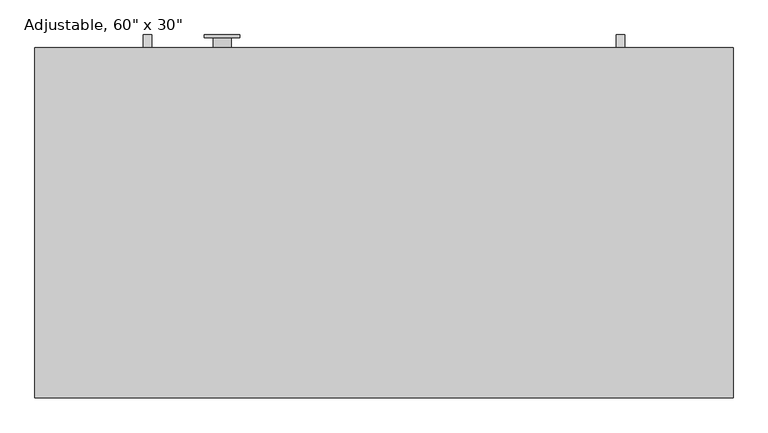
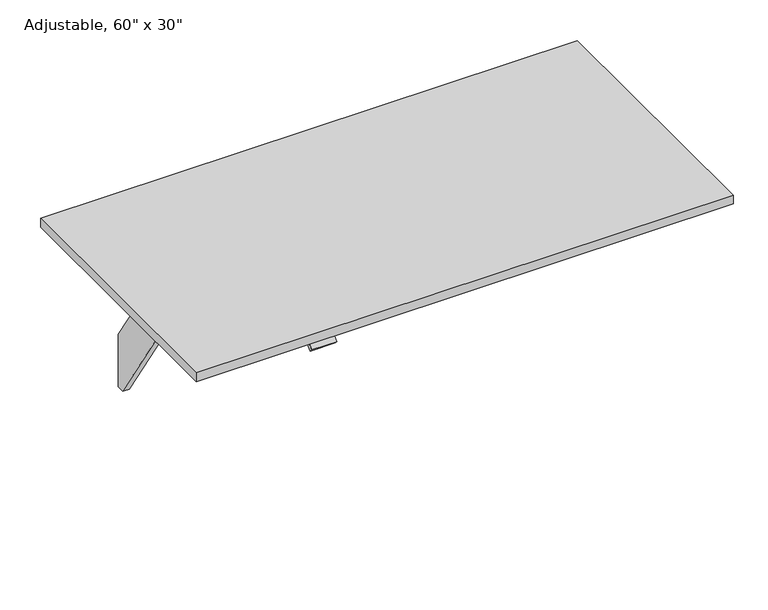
"""IFC4 building model written with IfcOpenShell, lengths in millimetres: furniture geometry."""

import ifcopenshell
import ifcopenshell.guid

model = None  # the IFC model being written
_history = None  # IfcOwnerHistory: only IFC2X3 demands one
_inside = {}  # id of a spatial element -> (the spatial element, [elements in it])
_under = {}  # id of a project, library or spatial element -> (it, [spatial elements below it])
_declared = {}  # id of a project -> (the project, [libraries it declares])
_typed = {}  # id of a type object -> (the type object, [elements of that type])
_made_of = {}  # id of a material, layer set ... -> (it, [elements and type objects made of it])


def new_model(schema):
    """Start an empty IFC model of exactly this schema.

    Asked for "IFC4X3", IfcOpenShell would pick the latest addendum, in which some entities
    have other attributes; the version numbers below select the first issue.
    IFC2X3 requires an IfcOwnerHistory on every rooted entity: one is made here for all.
    """
    global model, _history
    if schema == "IFC4X3":
        model = ifcopenshell.file(schema_version=(4, 3, 0, 0))
    else:
        model = ifcopenshell.file(schema=schema)
    _inside.clear()
    _under.clear()
    _declared.clear()
    _typed.clear()
    _made_of.clear()
    _history = None
    if model.schema == "IFC2X3":
        org = make("IfcOrganization", Name="unknown")
        user = make(
            "IfcPersonAndOrganization",
            ThePerson=make("IfcPerson", FamilyName="unknown"),
            TheOrganization=org,
        )
        app = make(
            "IfcApplication",
            ApplicationDeveloper=org,
            Version="unknown",
            ApplicationFullName="unknown",
            ApplicationIdentifier="unknown",
        )
        _history = make(
            "IfcOwnerHistory",
            OwningUser=user,
            OwningApplication=app,
            ChangeAction="ADDED",
            CreationDate=0,
        )
    return model


def make(cls, **values):
    """One entity of the class cls with the attributes given. An attribute that is None is left unset."""
    return model.create_entity(
        cls, **{name: value for name, value in values.items() if value is not None}
    )


def rooted(cls, **values):
    """An entity with a GlobalId (a new one), such as an element, a storey or a relation."""
    return make(cls, GlobalId=ifcopenshell.guid.new(), OwnerHistory=_history, **values)


def si_unit(unit_type, name, prefix=None):
    """IfcSIUnit, for example si_unit("LENGTHUNIT", "METRE", prefix="MILLI")."""
    return make("IfcSIUnit", UnitType=unit_type, Prefix=prefix, Name=name)


def assignment(units):
    """IfcUnitAssignment: the units of a project."""
    return None if units is None else make("IfcUnitAssignment", Units=units)


def point(xyz):
    """IfcCartesianPoint."""
    return None if xyz is None else make("IfcCartesianPoint", Coordinates=xyz)


def direction(xyz):
    """IfcDirection."""
    return None if xyz is None else make("IfcDirection", DirectionRatios=xyz)


def frame(location, z_axis=None, x_axis=None):
    """IfcAxis2Placement3D, a coordinate frame: its origin and axes. An axis left out is left unset."""
    return make(
        "IfcAxis2Placement3D",
        Location=point(location),
        Axis=direction(z_axis),
        RefDirection=direction(x_axis),
    )


def frame_2d(location, x_axis=None):
    """IfcAxis2Placement2D, a coordinate frame in the plane: its origin and x axis."""
    return make(
        "IfcAxis2Placement2D", Location=point(location), RefDirection=direction(x_axis)
    )


def origin():
    """The frame at (0, 0, 0) with its axes left unset."""
    return frame((0.0, 0.0, 0.0))


def place(relative_to, where):
    """IfcLocalPlacement: puts the frame where relative to a parent placement (None: the world)."""
    return make(
        "IfcLocalPlacement", PlacementRelTo=relative_to, RelativePlacement=where
    )


def context(
    kind, dimensions, precision=None, world=None, true_north=None, identifier=None
):
    """IfcGeometricRepresentationContext, for example the 3D "Model" context."""
    return make(
        "IfcGeometricRepresentationContext",
        ContextIdentifier=identifier,
        ContextType=kind,
        CoordinateSpaceDimension=dimensions,
        Precision=precision,
        WorldCoordinateSystem=world,
        TrueNorth=true_north,
    )


def project(units=None, contexts=None):
    """IfcProject with its units and contexts."""
    return rooted(
        "IfcProject",
        Name="project",
        RepresentationContexts=contexts,
        UnitsInContext=assignment(units),
    )


def spatial(cls, under=None, at=None, **own):
    """A site, building, storey or space (cls), placed at a placement, below another one or the project."""
    s = rooted(cls, ObjectPlacement=at, **own)
    if under is not None:
        _under.setdefault(under.id(), (under, []))[1].append(s)
    return s


def polyline(points):
    """IfcPolyline through the points."""
    return make("IfcPolyline", Points=[point(p) for p in points])


def circle_curve(where, radius):
    """IfcCircle in the frame where."""
    return make("IfcCircle", Position=where, Radius=radius)


def trimmed(basis, trim1, trim2, sense, master):
    """IfcTrimmedCurve: the piece of a basis curve between two trims."""
    return make(
        "IfcTrimmedCurve",
        BasisCurve=basis,
        Trim1=trim1,
        Trim2=trim2,
        SenseAgreement=sense,
        MasterRepresentation=master,
    )


def segment(curve, same_sense, transition):
    """IfcCompositeCurveSegment."""
    return make(
        "IfcCompositeCurveSegment",
        Transition=transition,
        SameSense=same_sense,
        ParentCurve=curve,
    )


def composite_curve(segments, self_intersect=None):
    """IfcCompositeCurve: segments joined end to end."""
    return make("IfcCompositeCurve", Segments=segments, SelfIntersect=self_intersect)


def outline(outer, holes=None, kind="AREA"):
    """IfcArbitraryClosedProfileDef: a profile drawn as a closed curve; with holes, ...WithVoids."""
    if holes is None:
        return make("IfcArbitraryClosedProfileDef", ProfileType=kind, OuterCurve=outer)
    return make(
        "IfcArbitraryProfileDefWithVoids",
        ProfileType=kind,
        OuterCurve=outer,
        InnerCurves=holes,
    )


def extrude(swept, where, along, depth):
    """IfcExtrudedAreaSolid: the profile swept, set in the frame where, extruded along a direction by depth."""
    return make(
        "IfcExtrudedAreaSolid",
        SweptArea=swept,
        Position=where,
        ExtrudedDirection=direction(along),
        Depth=depth,
    )


def shape(context_of_items, identifier, shape_type, items):
    """IfcShapeRepresentation: the items that make up one representation, for example the "Body"."""
    return make(
        "IfcShapeRepresentation",
        ContextOfItems=context_of_items,
        RepresentationIdentifier=identifier,
        RepresentationType=shape_type,
        Items=items,
    )


def source(mapping_origin, context_of_items, identifier, shape_type, items):
    """IfcRepresentationMap: a shape defined once, which mapped items show again and again."""
    return make(
        "IfcRepresentationMap",
        MappingOrigin=mapping_origin,
        MappedRepresentation=shape(context_of_items, identifier, shape_type, items),
    )


def transform(
    local_origin,
    x_axis=None,
    y_axis=None,
    z_axis=None,
    scale=None,
    scale2=None,
    scale3=None,
    uniform=True,
):
    """IfcCartesianTransformationOperator3D, or its non-uniform kind. x_axis, y_axis, z_axis: its Axis1, 2, 3."""
    if uniform:
        return make(
            "IfcCartesianTransformationOperator3D",
            Axis1=direction(x_axis),
            Axis2=direction(y_axis),
            LocalOrigin=point(local_origin),
            Scale=scale,
            Axis3=direction(z_axis),
        )
    return make(
        "IfcCartesianTransformationOperator3DnonUniform",
        Axis1=direction(x_axis),
        Axis2=direction(y_axis),
        LocalOrigin=point(local_origin),
        Scale=scale,
        Axis3=direction(z_axis),
        Scale2=scale2,
        Scale3=scale3,
    )


def mapped(mapping_source, mapping_target):
    """IfcMappedItem: shows the shape of a source again, moved by a transform."""
    return make(
        "IfcMappedItem", MappingSource=mapping_source, MappingTarget=mapping_target
    )


def made_of(thing, what):
    """Note that an element or type object is made of a material, layer set ...; save() writes the relation."""
    if what is not None:
        _made_of.setdefault(what.id(), (what, []))[1].append(thing)
    return thing


def element(
    cls,
    number,
    at=None,
    inside=None,
    cuts=None,
    type_object=None,
    material=None,
    context=None,
    identifier="Body",
    shape_type=None,
    held_by="IfcProductDefinitionShape",
    body=None,
    shapes=None,
    **own,
):
    """One element of the class cls, such as IfcWall. Its Tag is "e" and its number.

    at: its placement. inside: the storey or other place that contains it. cuts: it is an
    opening in that element (IfcRelVoidsElement). A single representation is given by context,
    identifier, shape_type and body (its items); several are given by shapes. held_by: the class
    of the entity that holds the representations. save() writes the other relations.
    """
    e = rooted(cls, Tag="e%d" % number, ObjectPlacement=at, **own)
    if body is not None:
        shapes = [shape(context, identifier, shape_type, body)]
    if shapes is not None:
        e.Representation = make(held_by, Representations=shapes)
    if inside is not None:
        _inside.setdefault(inside.id(), (inside, []))[1].append(e)
    if cuts is not None:
        rooted(
            "IfcRelVoidsElement", RelatingBuildingElement=cuts, RelatedOpeningElement=e
        )
    if type_object is not None:
        _typed.setdefault(type_object.id(), (type_object, []))[1].append(e)
    return made_of(e, material)


def aggregate(whole, parts):
    """IfcRelAggregates: a whole, such as a stair, and the parts it consists of."""
    return rooted("IfcRelAggregates", RelatingObject=whole, RelatedObjects=parts)


def save(model, path):
    """Write the relations noted so far, then the file.

    IfcRelAggregates (storeys below a building ...), IfcRelContainedInSpatialStructure (elements
    in a storey), IfcRelDefinesByType, IfcRelAssociatesMaterial and IfcRelDeclares: one each for
    every whole, place, type object, material and project.
    """
    for whole, parts in _under.values():
        aggregate(whole, parts)
    for where, things in _inside.values():
        rooted(
            "IfcRelContainedInSpatialStructure",
            RelatedElements=things,
            RelatingStructure=where,
        )
    for kind, things in _typed.values():
        rooted("IfcRelDefinesByType", RelatedObjects=things, RelatingType=kind)
    for what, things in _made_of.values():
        rooted("IfcRelAssociatesMaterial", RelatedObjects=things, RelatingMaterial=what)
    for by, libraries in _declared.values():
        rooted("IfcRelDeclares", RelatingContext=by, RelatedDefinitions=libraries)
    model.write(path)


def plane_surface(at):
    """IfcPlane: the flat surface through the origin of the frame at, square to its z axis."""
    return make("IfcPlane", Position=at)


def cylinder_surface(at, radius):
    """IfcCylindricalSurface: all points at the distance radius from the z axis of the frame at."""
    return make("IfcCylindricalSurface", Position=at, Radius=radius)


def revolved_surface(curve, axis_point, axis_direction):
    """IfcSurfaceOfRevolution: the curve turned about the line through axis_point along axis_direction."""
    return make(
        "IfcSurfaceOfRevolution",
        SweptCurve=make("IfcArbitraryOpenProfileDef", ProfileType="CURVE", Curve=curve),
        AxisPosition=make("IfcAxis1Placement", Location=point(axis_point), Axis=direction(axis_direction)),
    )


def advanced_brep(points, edges, surfaces, faces):
    """IfcAdvancedBrep: a solid bounded by faces that lie on surfaces and meet in shared edges.

    An edge is (start, end): straight between two places in points (the first is 0);
    or (start, end, curve); or (start, end, curve, False) where it runs against its curve.
    A face is (place in surfaces, loops), or (place, loops, False) where it looks against
    its surface's normal. A loop lists edges by number (the first is 1), with a minus sign
    where the edge is run from its end to its start. The first loop is the outer one.
    """
    corners = [point(p) for p in points]
    vertices = [make("IfcVertexPoint", VertexGeometry=c) for c in corners]
    made = []
    for start, end, *more in edges:
        made.append(
            make(
                "IfcEdgeCurve",
                EdgeStart=vertices[start],
                EdgeEnd=vertices[end],
                EdgeGeometry=more[0] if more else make("IfcPolyline", Points=[corners[start], corners[end]]),
                SameSense=more[1] if len(more) > 1 else True,
            )
        )
    hull = []
    for where, loops, *sense in faces:
        bounds = []
        for j, loop in enumerate(loops):
            ring = [make("IfcOrientedEdge", EdgeElement=made[abs(k) - 1], Orientation=k > 0) for k in loop]
            bounds.append(
                make(
                    "IfcFaceOuterBound" if j == 0 else "IfcFaceBound",
                    Bound=make("IfcEdgeLoop", EdgeList=ring),
                    Orientation=True,
                )
            )
        hull.append(make("IfcAdvancedFace", Bounds=bounds, FaceSurface=surfaces[where], SameSense=sense[0] if sense else True))
    return make("IfcAdvancedBrep", Outer=make("IfcClosedShell", CfsFaces=hull))


def furniture_ecb3b3c7(model_context):
    return source(origin(), model_context, "Body", "SolidModel", [
        extrude(outline(polyline([(29.2199219, 153.5921541), (8.6276198, 153.5921541), (-345.3046137, 698.6), (-477.3090911, 698.6), (-485.7513898, 711.6), (-85.1019822, 711.6), (-93.5442809, 698.6), (-226.0682844, 698.6), (29.2199219, 305.4906355), (29.2199219, 153.5921541)])), frame((129.1142463, 0.0, 0.0), z_axis=(1.0, 0.0, 0.0), x_axis=(0.0, 1.0, 0.0)), (0.0, 0.0, 1.0), 18.0),
        extrude(outline(composite_curve([segment(polyline([(-733.1055966, 691.708916), (-717.7537239, 704.5906666)]), True, "CONTINUOUS"), segment(trimmed(circle_curve(frame_2d((-708.1119098, 693.1)), 15.0), [point((-717.7537239, 704.5906666))], [point((-708.1119098, 708.1))], False, "CARTESIAN"), True, "CONTINUOUS"), segment(polyline([(-708.1119098, 708.1), (-703.2331661, 708.1), (-703.2331661, 711.6), (-664.784231, 711.6), (-664.784231, 708.1), (-659.001686, 708.1), (-659.001686, 697.1), (-707.7479396, 697.1)]), True, "CONTINUOUS"), segment(trimmed(circle_curve(frame_2d((-707.7479396, 692.1)), 5.0), [point((-707.7479396, 697.1))], [point((-710.9618776, 695.9302222))], True, "CARTESIAN"), True, "CONTINUOUS"), segment(polyline([(-710.9618776, 695.9302222), (-726.0349329, 683.2824271), (-733.1055966, 691.708916)]), True, "CONTINUOUS")], self_intersect=False)), frame((-775.6431337, 0.0, 0.0), z_axis=(1.0, 0.0, 0.0), x_axis=(0.0, 1.0, 0.0)), (0.0, 0.0, 1.0), 68.58),
        advanced_brep(
        [(-679.7457838, -171.1428681, 364.5778173), (-679.7457838, -171.1428681, 711.6), (-679.7457838, -209.1312877, 711.6), (-679.7457838, -209.1312877, 700.4375), (-679.7457838, -193.3960503, 691.3527565), (-679.7457838, -190.4851047, 691.3527565), (-679.7457838, -190.4851047, 365.4712483), (-679.7457838, 18.612113, 365.4712483), (-679.7457838, 18.612113, 565.4962483), (-679.7457838, 23.285119, 565.4962483), (-679.7457838, 23.285119, 663.0278173), (-679.7457838, -0.6170974, 663.0278173), (-679.7457838, -0.6170974, 364.5778173), (-717.9457838, -171.1428681, 364.5778173), (-717.9457838, -0.6170974, 364.5778173), (-717.9457838, -0.6170974, 663.0278173), (-717.9457838, 23.285119, 663.0278173), (-717.9457838, 23.285119, 565.4962483), (-717.9457838, 18.612113, 565.4962483), (-717.9457838, 18.612113, 365.4712483), (-717.9457838, -190.4851047, 365.4712483), (-717.9457838, -190.4851047, 691.3527565), (-717.9457838, -193.3960503, 691.3527565), (-717.9457838, -209.1312877, 700.4375), (-717.9457838, -209.1312877, 711.6), (-717.9457838, -171.1428681, 711.6), (-736.5037099, 23.285119, 565.4962483), (-736.5037099, 29.2199219, 565.4962483), (-661.3665576, 29.2199219, 565.4962483), (-661.3665576, 23.285119, 565.4962483), (-736.5037099, 29.2199219, 678.865527), (-661.3665576, 29.2199219, 678.865527), (-736.5037099, 23.285119, 678.865527), (-661.3665576, 23.285119, 678.865527)],
        [
            (0, 1),
            (1, 2),
            (2, 3),
            (3, 4),
            (4, 5),
            (5, 6),
            (6, 7, circle_curve(frame((-679.7457838, -85.9364959, 365.4712483), z_axis=(1.0, 0.0, 0.0), x_axis=(0.0, 0.0, 1.0)), 104.5486088)),
            (7, 8),
            (8, 9),
            (9, 10),
            (10, 11),
            (11, 12),
            (12, 0, circle_curve(frame((-679.7457838, -85.8799828, 364.5778173), z_axis=(-1.0, 0.0, 0.0), x_axis=(0.0, 0.0, 1.0)), 85.2628854)),
            (13, 14, circle_curve(frame((-717.9457838, -85.8799828, 364.5778173), z_axis=(1.0, 0.0, 0.0), x_axis=(0.0, 0.0, 1.0)), 85.2628854)),
            (14, 15),
            (15, 16),
            (16, 17),
            (17, 18),
            (18, 19),
            (19, 20, circle_curve(frame((-717.9457838, -85.9364959, 365.4712483), z_axis=(-1.0, 0.0, 0.0), x_axis=(0.0, 0.0, 1.0)), 104.5486088)),
            (20, 21),
            (21, 22),
            (22, 23),
            (23, 24),
            (24, 25),
            (25, 13),
            (0, 13),
            (25, 1),
            (24, 2),
            (23, 3),
            (22, 4),
            (21, 5),
            (20, 6),
            (19, 7),
            (18, 8),
            (17, 26),
            (26, 27),
            (27, 28),
            (28, 29),
            (29, 9),
            (27, 30),
            (30, 31),
            (31, 28),
            (30, 32),
            (32, 33),
            (33, 31),
            (32, 26),
            (16, 10),
            (29, 33),
            (15, 11),
            (14, 12),
        ],
        [
            plane_surface(frame((-679.7457838, 29.2199219, 736.6), z_axis=(1.0, 0.0, 0.0), x_axis=(0.0, 1.0, 0.0))),
            plane_surface(frame((-717.9457838, 29.2199219, 736.6), z_axis=(-1.0, 0.0, 0.0), x_axis=(0.0, 1.0, 0.0))),
            plane_surface(frame((-679.7457838, -171.1428681, 364.5778173), z_axis=(0.0, 1.0, 0.0), x_axis=(-1.0, 0.0, 0.0))),
            plane_surface(frame((-679.7457838, -171.1428681, 711.6), z_axis=(0.0, 0.0, 1.0), x_axis=(-1.0, 0.0, 0.0))),
            plane_surface(frame((-679.7457838, -209.1312877, 711.6), z_axis=(0.0, -1.0, 0.0), x_axis=(-1.0, 0.0, 0.0))),
            plane_surface(frame((-679.7457838, -209.1312877, 700.4375), z_axis=(0.0, -0.4999999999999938, -0.8660254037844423), x_axis=(-1.0, 0.0, 0.0))),
            plane_surface(frame((-679.7457838, -193.3960503, 691.3527565), z_axis=(0.0, 0.0, -1.0), x_axis=(-1.0, 0.0, 0.0))),
            plane_surface(frame((-679.7457838, -190.4851047, 691.3527565), z_axis=(0.0, -1.0, 0.0), x_axis=(-1.0, 0.0, 0.0))),
            cylinder_surface(frame((-679.7457838, -85.9364959, 365.4712483), z_axis=(1.0, 0.0, 0.0), x_axis=(0.0, 0.0, 1.0)), 104.5486088),
            plane_surface(frame((-679.7457838, 18.612113, 365.4712483), z_axis=(0.0, 1.0, 0.0), x_axis=(-1.0, 0.0, 0.0))),
            plane_surface(frame((-679.7457838, 18.612113, 565.4962483), z_axis=(0.0, 0.0, -1.0), x_axis=(-1.0, 0.0, 0.0))),
            plane_surface(frame((-679.7457838, 29.2199219, 565.4962483), z_axis=(0.0, 1.0, 0.0), x_axis=(-1.0, 0.0, 0.0))),
            plane_surface(frame((-679.7457838, 29.2199219, 678.865527), z_axis=(0.0, 0.0, 1.0), x_axis=(-1.0, 0.0, 0.0))),
            plane_surface(frame((-679.7457838, 23.285119, 678.865527), z_axis=(0.0, -1.0, 0.0), x_axis=(-1.0, 0.0, 0.0))),
            plane_surface(frame((-679.7457838, 23.285119, 663.0278173), z_axis=(0.0, 0.0, 1.0), x_axis=(-1.0, 0.0, 0.0))),
            plane_surface(frame((-679.7457838, -0.6170974, 663.0278173), z_axis=(0.0, -1.0, 0.0), x_axis=(-1.0, 0.0, 0.0))),
            revolved_surface(polyline([(-717.9457838, -85.8799828, 449.8407027), (-679.7457838, -85.8799828, 449.8407027)]), (-679.7457838, -85.8799828, 364.5778173), (-1.0, 0.0, 0.0)),
            plane_surface(frame((-736.5037099, 29.2199219, 565.4962483), z_axis=(-1.0, 0.0, 0.0), x_axis=(0.0, -1.0, 0.0))),
            plane_surface(frame((-661.3665576, 29.2199219, 678.865527), z_axis=(1.0, 0.0, 0.0), x_axis=(0.0, -1.0, 0.0))),
        ],
        [
            (0, [[1, 2, 3, 4, 5, 6, 7, 8, 9, 10, 11, 12, 13]]),
            (1, [[14, 15, 16, 17, 18, 19, 20, 21, 22, 23, 24, 25, 26]]),
            (2, [[-1, 27, -26, 28]]),
            (3, [[-2, -28, -25, 29]]),
            (4, [[-3, -29, -24, 30]]),
            (5, [[-4, -30, -23, 31]]),
            (6, [[-5, -31, -22, 32]]),
            (7, [[-6, -32, -21, 33]]),
            (8, [[-7, -33, -20, 34]]),
            (9, [[-8, -34, -19, 35]]),
            (10, [[-35, -18, 36, 37, 38, 39, 40, -9]]),
            (11, [[-38, 41, 42, 43]]),
            (12, [[-42, 44, 45, 46]]),
            (13, [[-45, 47, -36, -17, 48, -10, -40, 49]]),
            (14, [[-11, -48, -16, 50]]),
            (15, [[-12, -50, -15, 51]]),
            (16, [[-13, -51, -14, -27]]),
            (17, [[-41, -37, -47, -44]]),
            (18, [[-43, -46, -49, -39]]),
        ],
    ),
        extrude(outline(polyline([(-212.0399277, 636.99764), (-222.7921538, 653.5546163), (-221.9144617, 654.4323085), (-209.8037968, 635.78352), (-304.5111146, 635.78352), (-348.0214234, 702.78352), (-365.36221, 702.78352), (-365.36221, 703.99764), (-347.36221, 703.99764), (-303.8519012, 636.99764), (-212.0399277, 636.99764)])), frame((-846.6531337, 0.0, 0.0), z_axis=(1.0, 0.0, 0.0), x_axis=(0.0, 1.0, 0.0)), (0.0, 0.0, 1.0), 975.76738),
        extrude(outline(polyline([(29.2199219, 153.5921541), (8.6276198, 153.5921541), (-345.3046137, 698.6), (-477.3090911, 698.6), (-485.7513898, 711.6), (-85.1019822, 711.6), (-93.5442809, 698.6), (-226.0682844, 698.6), (29.2199219, 305.4906355), (29.2199219, 153.5921541)])), frame((-864.6531337, 0.0, 0.0), z_axis=(1.0, 0.0, 0.0), x_axis=(0.0, 1.0, 0.0)), (0.0, 0.0, 1.0), 18.0),
        extrude(outline(polyline([(-1092.1944437, -734.501686), (-1092.1944437, 2.098314), (374.6555563, 2.098314), (374.6555563, -734.501686), (-1092.1944437, -734.501686)])), frame((0.0, 0.0, 711.6), z_axis=(0.0, 0.0, 1.0), x_axis=(1.0, 0.0, 0.0)), (0.0, 0.0, 1.0), 25.0),
    ])


if __name__ == "__main__":
    model = new_model("IFC4")
    model_context = context("Model", 3, world=origin())
    ifc_project = project(units=[si_unit("LENGTHUNIT", "METRE", prefix="MILLI")], contexts=[model_context])
    site = spatial("IfcSite", under=ifc_project)
    building = spatial("IfcBuilding", under=site)
    placement = place(None, origin())
    furniture_shape = furniture_ecb3b3c7(model_context)
    element("IfcFurniture", 1, ObjectType="Furniture-Desk-Teknion-Altos_Landscape-R2015 : Adjustable, 60\" x 30\"", at=placement, inside=building, context=model_context, shape_type="MappedRepresentation", body=[
        mapped(furniture_shape, transform((0.0, 0.0, 0.0), x_axis=(1.0, 0.0, 0.0), y_axis=(0.0, 1.0, 0.0), z_axis=(0.0, 0.0, 1.0))),
    ])
    save(model, "model.ifc")
